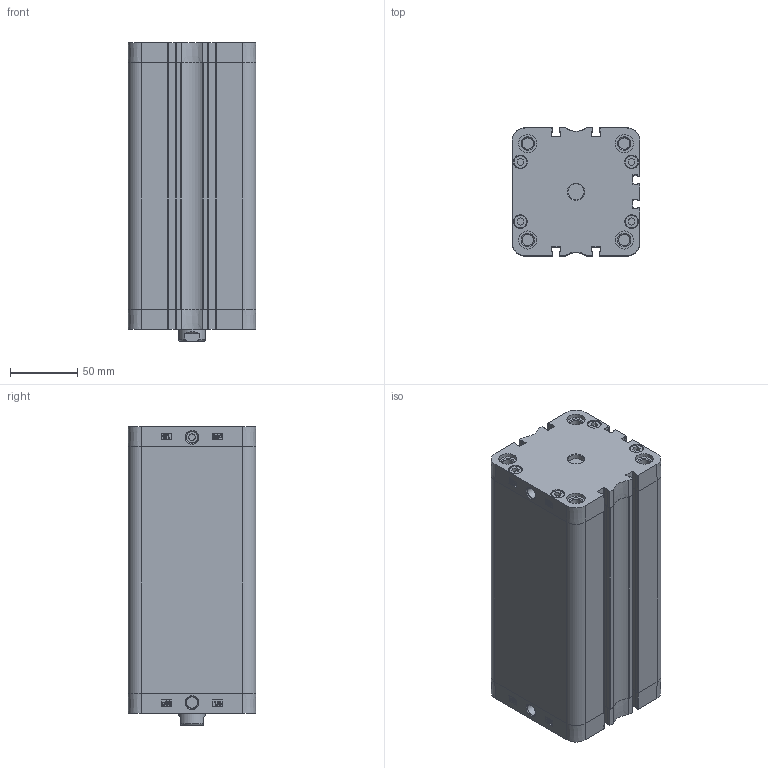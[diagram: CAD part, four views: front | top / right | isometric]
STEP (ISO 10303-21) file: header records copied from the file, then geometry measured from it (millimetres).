
FILE_DESCRIPTION(/* description */ ('Unknown'),/* implementation_level */ '2;1');
FILE_NAME(/* name */ 'ZIN 80_160',/* time_stamp */ '2024-11-12T08:19:59+01:00',/* author */ ('Unknown'),/* organization */ ('HAFNER Pneumatika Kft.'),/* preprocessor_version */ 'ST-DEVELOPER v18.102',/* originating_system */ 'Solid Edge',/* authorisation */ 'Unknown');
FILE_SCHEMA (('AUTOMOTIVE_DESIGN {1 0 10303 214 3 1 1}'));
Length unit declared in the file: millimetre
Products named in the file (5): ZIN 80_160; Kit_1; Kit_2; Kolbenstange; Profilrohr
Assembly tree (4 placements, depth 2):
  ZIN 80_160
    Kit_1
    Kit_2
    Kolbenstange
    Profilrohr
Bounding box: 95.5 x 95.5 x 223 mm (x, y, z)
Volume: 1103105.5 mm3; surface area: 221072.5 mm2
Topology: 4 solids, 4 shells, 731 faces, 1944 edges, 1291 vertices
Faces by surface type: plane 341, cylinder 208, bspline 122, cone 41, torus 19
Full cylindrical faces by diameter (mm): 5 x1, 8.376 x8, 8.566 x2, 9.8 x8, 10.106 x2, 10.3 x8, 12 x1, 13.5 x8, 20 x1, 20.6 x1, 21.9 x1, 23 x1, 25 x1, 80 x2
Entity records: 27386 total; most frequent: CARTESIAN_POINT 5712, ORIENTED_EDGE 3634, DIRECTION 3264, EDGE_CURVE 1817, VERTEX_POINT 1260, AXIS2_PLACEMENT_3D 1098, LINE 1068, VECTOR 1068
